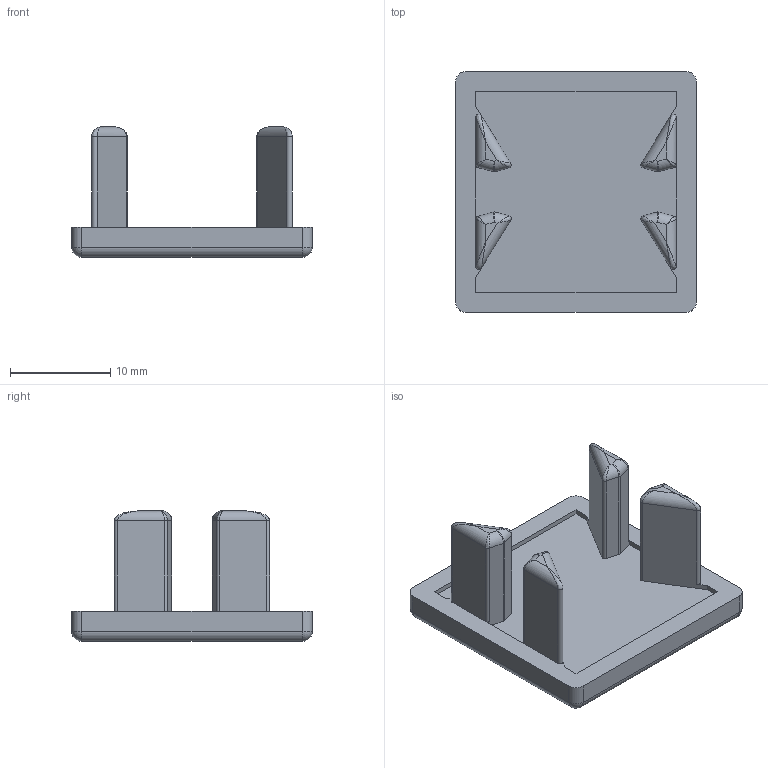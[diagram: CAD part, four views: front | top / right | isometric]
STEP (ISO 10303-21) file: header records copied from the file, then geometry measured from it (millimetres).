
FILE_DESCRIPTION (( 'STEP AP214' ), '1' );
FILE_NAME ('FBEC 24.step', '2017-04-05T08:00:48', ( '' ), ( '' ), 'SwSTEP 2.0', 'SolidWorks 2015', '' );
FILE_SCHEMA (( 'AUTOMOTIVE_DESIGN' ));
Length unit declared in the file: millimetre
Products named in the file (1): FBEC 24
Bounding box: 24 x 24 x 13 mm (x, y, z)
Volume: 1988.7 mm3; surface area: 2021.2 mm2
Topology: 1 solids, 1 shells, 97 faces, 242 edges, 128 vertices
Faces by surface type: cylinder 42, plane 35, bspline 16, sphere 4
Entity records: 3154 total; most frequent: CARTESIAN_POINT 1080, ORIENTED_EDGE 444, DIRECTION 406, EDGE_CURVE 222, LINE 138, VECTOR 138, AXIS2_PLACEMENT_3D 134, VERTEX_POINT 128
